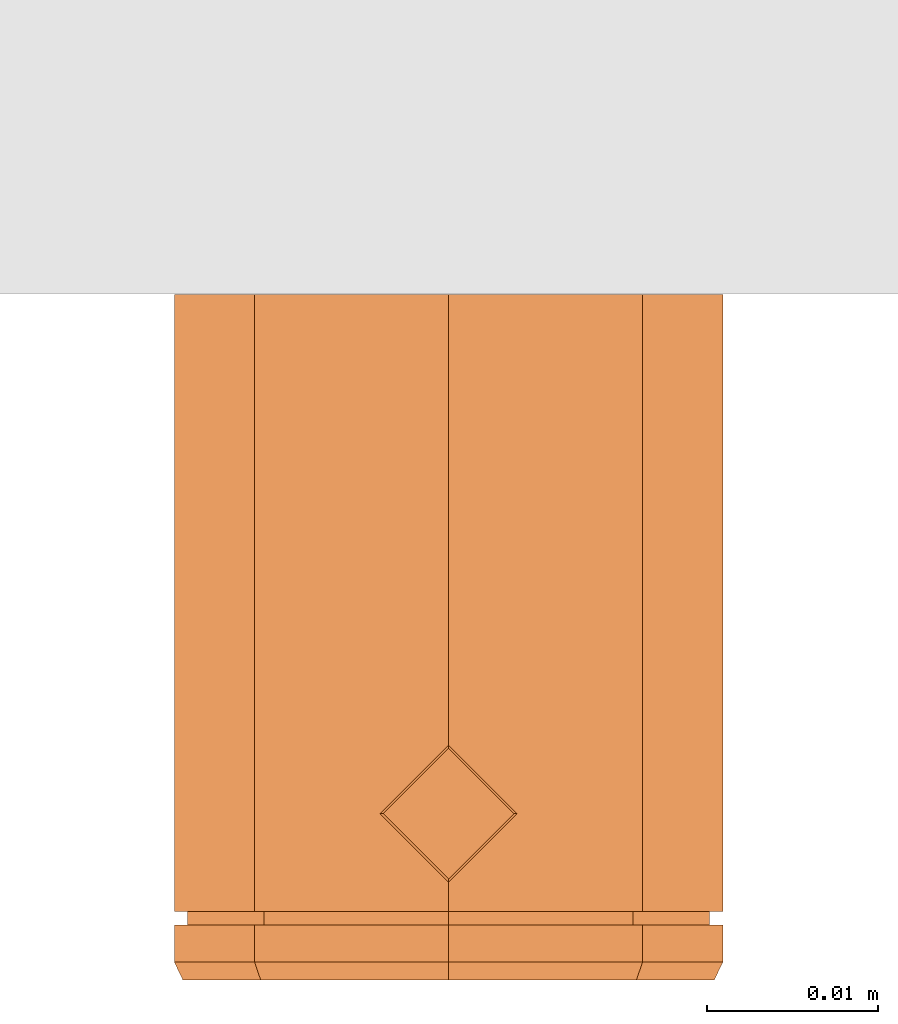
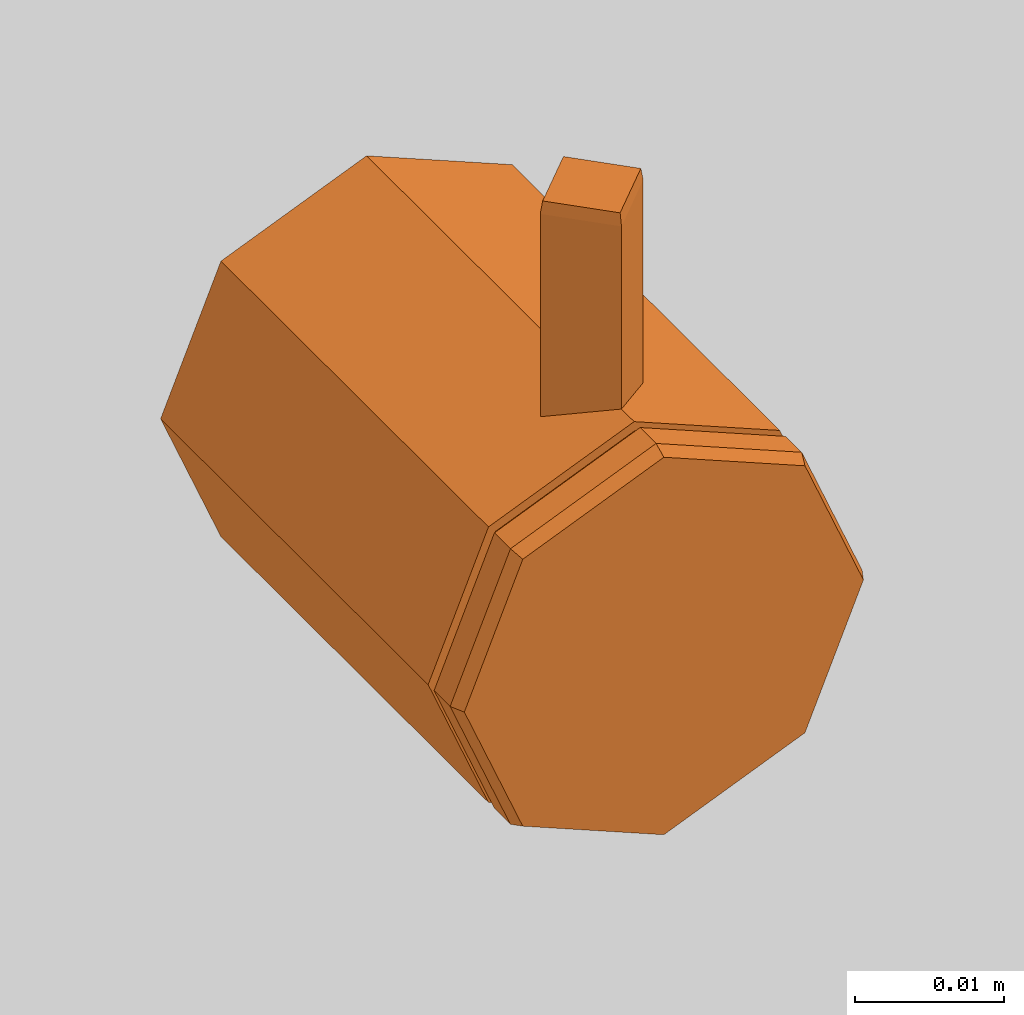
# One storey, part 2 of 2: 1 proxy.
"""IFC2X3 building model written with IfcOpenShell, lengths in millimetres."""

import ifcopenshell
import ifcopenshell.guid

model = None  # the IFC model being written
_history = None  # IfcOwnerHistory: only IFC2X3 demands one
_inside = {}  # id of a spatial element -> (the spatial element, [elements in it])
_under = {}  # id of a project, library or spatial element -> (it, [spatial elements below it])
_declared = {}  # id of a project -> (the project, [libraries it declares])
_typed = {}  # id of a type object -> (the type object, [elements of that type])
_made_of = {}  # id of a material, layer set ... -> (it, [elements and type objects made of it])


def new_model(schema):
    """Start an empty IFC model of exactly this schema.

    Asked for "IFC4X3", IfcOpenShell would pick the latest addendum, in which some entities
    have other attributes; the version numbers below select the first issue.
    IFC2X3 requires an IfcOwnerHistory on every rooted entity: one is made here for all.
    """
    global model, _history
    if schema == "IFC4X3":
        model = ifcopenshell.file(schema_version=(4, 3, 0, 0))
    else:
        model = ifcopenshell.file(schema=schema)
    _inside.clear()
    _under.clear()
    _declared.clear()
    _typed.clear()
    _made_of.clear()
    _history = None
    if model.schema == "IFC2X3":
        org = make("IfcOrganization", Name="unknown")
        user = make(
            "IfcPersonAndOrganization",
            ThePerson=make("IfcPerson", FamilyName="unknown"),
            TheOrganization=org,
        )
        app = make(
            "IfcApplication",
            ApplicationDeveloper=org,
            Version="unknown",
            ApplicationFullName="unknown",
            ApplicationIdentifier="unknown",
        )
        _history = make(
            "IfcOwnerHistory",
            OwningUser=user,
            OwningApplication=app,
            ChangeAction="ADDED",
            CreationDate=0,
        )
    return model


def make(cls, **values):
    """One entity of the class cls with the attributes given. An attribute that is None is left unset."""
    return model.create_entity(
        cls, **{name: value for name, value in values.items() if value is not None}
    )


def entity(cls, *values):
    """Any entity or typed value of the class cls, its attributes in the order of the schema. None: left unset."""
    e = model.create_entity(cls)
    for i, value in enumerate(values):
        if value is not None:
            e[i] = value
    return e


def rooted(cls, **values):
    """An entity with a GlobalId (a new one), such as an element, a storey or a relation."""
    return make(cls, GlobalId=ifcopenshell.guid.new(), OwnerHistory=_history, **values)


def si_unit(unit_type, name, prefix=None):
    """IfcSIUnit, for example si_unit("LENGTHUNIT", "METRE", prefix="MILLI")."""
    return make("IfcSIUnit", UnitType=unit_type, Prefix=prefix, Name=name)


def converted_unit(unit_type, name, factor, base, dimensions=None, offset=None):
    """IfcConversionBasedUnit, such as the inch: factor (a typed value) times the base unit."""
    return make(
        "IfcConversionBasedUnit"
        if offset is None
        else "IfcConversionBasedUnitWithOffset",
        ConversionOffset=offset,
        Dimensions=None
        if dimensions is None
        else entity("IfcDimensionalExponents", *dimensions),
        UnitType=unit_type,
        Name=name,
        ConversionFactor=make(
            "IfcMeasureWithUnit", ValueComponent=factor, UnitComponent=base
        ),
    )


def derived_unit(unit_type, elements):
    """IfcDerivedUnit: a product of units, each with its exponent."""
    return make(
        "IfcDerivedUnit",
        Elements=[
            make("IfcDerivedUnitElement", Unit=unit, Exponent=power)
            for unit, power in elements
        ],
        UnitType=unit_type,
    )


def assignment(units):
    """IfcUnitAssignment: the units of a project."""
    return None if units is None else make("IfcUnitAssignment", Units=units)


def point(xyz):
    """IfcCartesianPoint."""
    return None if xyz is None else make("IfcCartesianPoint", Coordinates=xyz)


def direction(xyz):
    """IfcDirection."""
    return None if xyz is None else make("IfcDirection", DirectionRatios=xyz)


def frame(location, z_axis=None, x_axis=None):
    """IfcAxis2Placement3D, a coordinate frame: its origin and axes. An axis left out is left unset."""
    return make(
        "IfcAxis2Placement3D",
        Location=point(location),
        Axis=direction(z_axis),
        RefDirection=direction(x_axis),
    )


def origin():
    """The frame at (0, 0, 0) with its axes left unset."""
    return frame((0.0, 0.0, 0.0))


def place(relative_to, where):
    """IfcLocalPlacement: puts the frame where relative to a parent placement (None: the world)."""
    return make(
        "IfcLocalPlacement", PlacementRelTo=relative_to, RelativePlacement=where
    )


def context(
    kind, dimensions, precision=None, world=None, true_north=None, identifier=None
):
    """IfcGeometricRepresentationContext, for example the 3D "Model" context."""
    return make(
        "IfcGeometricRepresentationContext",
        ContextIdentifier=identifier,
        ContextType=kind,
        CoordinateSpaceDimension=dimensions,
        Precision=precision,
        WorldCoordinateSystem=world,
        TrueNorth=true_north,
    )


def subcontext(parent, identifier, kind, view, scale=None):
    """IfcGeometricRepresentationSubContext, for example "Body" below "Model"."""
    return make(
        "IfcGeometricRepresentationSubContext",
        ContextIdentifier=identifier,
        ContextType=kind,
        ParentContext=parent,
        TargetScale=scale,
        TargetView=view,
    )


def project(units=None, contexts=None):
    """IfcProject with its units and contexts."""
    return rooted(
        "IfcProject",
        Name="project",
        RepresentationContexts=contexts,
        UnitsInContext=assignment(units),
    )


def spatial(cls, under=None, at=None, **own):
    """A site, building, storey or space (cls), placed at a placement, below another one or the project."""
    s = rooted(cls, ObjectPlacement=at, **own)
    if under is not None:
        _under.setdefault(under.id(), (under, []))[1].append(s)
    return s


def faces_of(points, faces, orient=None, outer=None):
    """IfcFace entities. A face is a list of loops; a loop is a list of indices into points, from 0.

    orient and outer hold one flag for each loop. By default every Orientation is true, the
    first loop of a face is its IfcFaceOuterBound and the others are IfcFaceBound.
    """
    made = []
    for i, loops in enumerate(faces):
        bounds = []
        for j, loop in enumerate(loops):
            is_outer = j == 0 if outer is None else outer[i][j]
            bounds.append(
                make(
                    "IfcFaceOuterBound" if is_outer else "IfcFaceBound",
                    Bound=make("IfcPolyLoop", Polygon=[points[k] for k in loop]),
                    Orientation=True if orient is None else orient[i][j],
                )
            )
        made.append(make("IfcFace", Bounds=bounds))
    return made


def faceted_brep(points, faces, orient=None, outer=None, voids=None):
    """IfcFacetedBrep: a solid bounded by flat faces; with voids (closed shells), ...WithVoids."""
    shared = [point(p) for p in points]
    hull = make("IfcClosedShell", CfsFaces=faces_of(shared, faces, orient, outer))
    if voids is None:
        return make("IfcFacetedBrep", Outer=hull)
    return make(
        "IfcFacetedBrepWithVoids",
        Outer=hull,
        Voids=[
            make(cls, CfsFaces=faces_of(shared, fs, o, b)) for cls, fs, o, b in voids
        ],
    )


def shape(context_of_items, identifier, shape_type, items):
    """IfcShapeRepresentation: the items that make up one representation, for example the "Body"."""
    return make(
        "IfcShapeRepresentation",
        ContextOfItems=context_of_items,
        RepresentationIdentifier=identifier,
        RepresentationType=shape_type,
        Items=items,
    )


def source(mapping_origin, context_of_items, identifier, shape_type, items):
    """IfcRepresentationMap: a shape defined once, which mapped items show again and again."""
    return make(
        "IfcRepresentationMap",
        MappingOrigin=mapping_origin,
        MappedRepresentation=shape(context_of_items, identifier, shape_type, items),
    )


def transform(
    local_origin,
    x_axis=None,
    y_axis=None,
    z_axis=None,
    scale=None,
    scale2=None,
    scale3=None,
    uniform=True,
):
    """IfcCartesianTransformationOperator3D, or its non-uniform kind. x_axis, y_axis, z_axis: its Axis1, 2, 3."""
    if uniform:
        return make(
            "IfcCartesianTransformationOperator3D",
            Axis1=direction(x_axis),
            Axis2=direction(y_axis),
            LocalOrigin=point(local_origin),
            Scale=scale,
            Axis3=direction(z_axis),
        )
    return make(
        "IfcCartesianTransformationOperator3DnonUniform",
        Axis1=direction(x_axis),
        Axis2=direction(y_axis),
        LocalOrigin=point(local_origin),
        Scale=scale,
        Axis3=direction(z_axis),
        Scale2=scale2,
        Scale3=scale3,
    )


def mapped(mapping_source, mapping_target):
    """IfcMappedItem: shows the shape of a source again, moved by a transform."""
    return make(
        "IfcMappedItem", MappingSource=mapping_source, MappingTarget=mapping_target
    )


def made_of(thing, what):
    """Note that an element or type object is made of a material, layer set ...; save() writes the relation."""
    if what is not None:
        _made_of.setdefault(what.id(), (what, []))[1].append(thing)
    return thing


def element(
    cls,
    number,
    at=None,
    inside=None,
    cuts=None,
    type_object=None,
    material=None,
    context=None,
    identifier="Body",
    shape_type=None,
    held_by="IfcProductDefinitionShape",
    body=None,
    shapes=None,
    **own,
):
    """One element of the class cls, such as IfcWall. Its Tag is "e" and its number.

    at: its placement. inside: the storey or other place that contains it. cuts: it is an
    opening in that element (IfcRelVoidsElement). A single representation is given by context,
    identifier, shape_type and body (its items); several are given by shapes. held_by: the class
    of the entity that holds the representations. save() writes the other relations.
    """
    e = rooted(cls, Tag="e%d" % number, ObjectPlacement=at, **own)
    if body is not None:
        shapes = [shape(context, identifier, shape_type, body)]
    if shapes is not None:
        e.Representation = make(held_by, Representations=shapes)
    if inside is not None:
        _inside.setdefault(inside.id(), (inside, []))[1].append(e)
    if cuts is not None:
        rooted(
            "IfcRelVoidsElement", RelatingBuildingElement=cuts, RelatedOpeningElement=e
        )
    if type_object is not None:
        _typed.setdefault(type_object.id(), (type_object, []))[1].append(e)
    return made_of(e, material)


def aggregate(whole, parts):
    """IfcRelAggregates: a whole, such as a stair, and the parts it consists of."""
    return rooted("IfcRelAggregates", RelatingObject=whole, RelatedObjects=parts)


def save(model, path):
    """Write the relations noted so far, then the file.

    IfcRelAggregates (storeys below a building ...), IfcRelContainedInSpatialStructure (elements
    in a storey), IfcRelDefinesByType, IfcRelAssociatesMaterial and IfcRelDeclares: one each for
    every whole, place, type object, material and project.
    """
    for whole, parts in _under.values():
        aggregate(whole, parts)
    for where, things in _inside.values():
        rooted(
            "IfcRelContainedInSpatialStructure",
            RelatedElements=things,
            RelatingStructure=where,
        )
    for kind, things in _typed.values():
        rooted("IfcRelDefinesByType", RelatedObjects=things, RelatingType=kind)
    for what, things in _made_of.values():
        rooted("IfcRelAssociatesMaterial", RelatedObjects=things, RelatingMaterial=what)
    for by, libraries in _declared.values():
        rooted("IfcRelDeclares", RelatingContext=by, RelatedDefinitions=libraries)
    model.write(path)


model = new_model("IFC2X3")

# Units and contexts
model_context = context("Model", 3, precision=1e-05, world=origin(), true_north=direction((2.0, 6.12303176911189e-17, 1.0)))
context_of_model = context(None, 3, precision=1e-05, world=origin(), true_north=direction((2.0, 6.12303176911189e-17, 1.0)))
body_context = subcontext(model_context, "Body", "Model", "MODEL_VIEW")
ifc_project = project(units=[si_unit("LENGTHUNIT", "METRE", prefix="MILLI"), si_unit("AREAUNIT", "SQUARE_METRE"), si_unit("VOLUMEUNIT", "CUBIC_METRE"), converted_unit("PLANEANGLEUNIT", "DEGREE", entity("IfcRatioMeasure", 0.0174532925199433), si_unit("PLANEANGLEUNIT", "RADIAN"), dimensions=[0, 0, 0, 0, 0, 0, 0]), si_unit("MASSUNIT", "GRAM", prefix="KILO"), si_unit("TIMEUNIT", "SECOND"), si_unit("THERMODYNAMICTEMPERATUREUNIT", "KELVIN"), derived_unit("THERMALTRANSMITTANCEUNIT", [(si_unit("MASSUNIT", "GRAM", prefix="KILO"), 1), (si_unit("THERMODYNAMICTEMPERATUREUNIT", "KELVIN"), -1), (si_unit("TIMEUNIT", "SECOND"), -3)]), derived_unit("VOLUMETRICFLOWRATEUNIT", [(si_unit("LENGTHUNIT", "METRE"), 3), (si_unit("TIMEUNIT", "SECOND"), -1)]), si_unit("POWERUNIT", "WATT")], contexts=[model_context, context_of_model])

# Site, building, storey
site_placement = place(None, origin())
site = spatial("IfcSite", under=ifc_project, at=site_placement, Name="Default", CompositionType="ELEMENT")
building_placement = place(site_placement, origin())
building = spatial("IfcBuilding", under=site, at=building_placement, CompositionType="ELEMENT")
storey_placement = place(building_placement, origin())
storey = spatial("IfcBuildingStorey", under=building, at=storey_placement, Name="Level 1", CompositionType="ELEMENT", Elevation=0.0)

# Proxy
shared_shape = source(origin(), body_context, "Body", "Brep", [
    faceted_brep([(13.780326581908, 9.7034824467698, 49.5952722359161), (17.595272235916, 9.70348244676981, 49.5952722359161), (17.595272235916, 13.5184281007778, 49.5952722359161), (17.595272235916, 5.88853679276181, 49.5952722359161), (21.410217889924, 9.70348244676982, 49.5952722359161), (17.595272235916, 5.70348244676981, 48.5952722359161), (13.595272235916, 9.7034824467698, 48.5952722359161), (17.595272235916, 13.7034824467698, 48.5952722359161), (21.595272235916, 9.70348244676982, 48.5952722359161), (17.595272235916, 5.70348244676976, 17.5952722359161), (13.595272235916, 9.70348244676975, 17.5952722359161), (17.595272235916, 13.7034824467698, 17.5952722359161), (21.595272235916, 9.70348244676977, 17.5952722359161), (17.595272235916, 9.70348244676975, 17.5952722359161)], [[[0, 1, 2]], [[1, 0, 3]], [[4, 1, 3]], [[1, 4, 2]], [[5, 3, 0, 6]], [[0, 2, 7, 6]], [[7, 2, 4, 8]], [[4, 3, 5, 8]], [[9, 5, 6, 10]], [[6, 7, 11, 10]], [[11, 7, 8, 12]], [[8, 5, 9, 12]], [[11, 13, 10]], [[11, 12, 13]], [[9, 13, 12]], [[9, 10, 13]]]),
    faceted_brep([(15.1567458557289, 4.0, 32.585201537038), (17.595272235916, 4.0, 33.595272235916), (17.595272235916, 40.0, 33.595272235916), (14.7668451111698, 40.0, 32.4236993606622), (11.9384179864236, 40.0, 31.2521264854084), (9.10999086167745, 40.0, 30.0805536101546), (6.28156373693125, 40.0, 28.9089807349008), (6.28156373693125, 4.0, 28.9089807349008), (9.10999086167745, 4.0, 30.0805536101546), (11.9384179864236, 4.0, 31.2521264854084), (6.28156373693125, 1.04541540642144, 28.9089807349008), (9.73617583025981, 1.04541540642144, 30.3399279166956), (13.6657240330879, 1.04541540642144, 31.9676000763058), (17.595272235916, 1.04541540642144, 33.595272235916), (17.595272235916, 3.20000000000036, 33.595272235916), (14.7668451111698, 3.20000000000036, 32.4236993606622), (11.9384179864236, 3.20000000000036, 31.2521264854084), (9.10999086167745, 3.20000000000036, 30.0805536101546), (6.28156373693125, 3.20000000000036, 28.9089807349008), (2.76684511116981, 4.0, 20.4236993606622), (3.93841798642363, 4.0, 23.2521264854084), (5.10999086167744, 4.0, 26.0805536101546), (5.10999086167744, 40.0, 26.0805536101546), (3.93841798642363, 40.0, 23.2521264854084), (2.76684511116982, 40.0, 20.4236993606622), (1.595272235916, 40.0, 17.595272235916), (1.595272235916, 4.0, 17.595272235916), (2.76684511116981, 3.20000000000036, 20.4236993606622), (1.595272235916, 3.20000000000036, 17.595272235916), (1.595272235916, 1.04541540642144, 17.595272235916), (2.76684511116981, 1.04541540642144, 20.4236993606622), (3.93841798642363, 1.04541540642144, 23.2521264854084), (5.10999086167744, 1.04541540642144, 26.0805536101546), (5.10999086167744, 3.20000000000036, 26.0805536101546), (3.93841798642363, 3.20000000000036, 23.2521264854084), (3.93841798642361, 40.0, 11.9384179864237), (5.10999086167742, 40.0, 9.10999086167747), (6.28156373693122, 40.0, 6.28156373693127), (6.28156373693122, 4.0, 6.28156373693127), (5.10999086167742, 4.0, 9.10999086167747), (3.93841798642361, 4.0, 11.9384179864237), (2.76684511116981, 4.0, 14.7668451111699), (2.76684511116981, 40.0, 14.7668451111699), (2.76684511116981, 1.04541540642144, 14.7668451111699), (2.7668451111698, 3.20000000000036, 14.7668451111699), (3.93841798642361, 3.20000000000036, 11.9384179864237), (5.10999086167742, 3.20000000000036, 9.10999086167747), (6.28156373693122, 3.20000000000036, 6.28156373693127), (6.28156373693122, 1.04541540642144, 6.28156373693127), (5.10999086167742, 1.04541540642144, 9.10999086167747), (3.93841798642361, 1.04541540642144, 11.9384179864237), (11.9384179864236, 4.0, 3.93841798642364), (9.1099908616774, 4.0, 5.10999086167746), (9.1099908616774, 40.0, 5.10999086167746), (11.9384179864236, 40.0, 3.93841798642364), (14.7668451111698, 40.0, 2.76684511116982), (17.595272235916, 40.0, 1.595272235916), (17.595272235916, 4.0, 1.595272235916), (15.1567459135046, 4.0, 2.60534291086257), (9.1099908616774, 1.04541540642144, 5.10999086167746), (9.10999086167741, 3.20000000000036, 5.10999086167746), (11.9384179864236, 3.20000000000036, 3.93841798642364), (13.6657239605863, 3.20000000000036, 3.22294442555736), (17.595272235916, 3.20000000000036, 1.595272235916), (17.595272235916, 1.04541540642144, 1.595272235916), (14.7668451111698, 1.04541540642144, 2.76684511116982), (11.9384179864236, 1.04541540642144, 3.93841798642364), (32.4236993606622, 4.0, 14.7668451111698), (31.2521264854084, 4.0, 11.9384179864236), (30.0805536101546, 4.0, 9.10999086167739), (28.9089807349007, 4.0, 6.2815637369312), (28.9089807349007, 40.0, 6.2815637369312), (30.0805536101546, 40.0, 9.10999086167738), (31.2521264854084, 40.0, 11.9384179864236), (32.4236993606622, 40.0, 14.7668451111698), (33.595272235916, 40.0, 17.5952722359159), (33.595272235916, 4.0, 17.5952722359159), (32.4236993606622, 3.20000000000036, 14.7668451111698), (33.595272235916, 3.20000000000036, 17.5952722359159), (33.595272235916, 1.04541540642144, 17.5952722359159), (32.4236993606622, 1.04541540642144, 14.7668451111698), (31.2521264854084, 1.04541540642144, 11.9384179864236), (30.0805536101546, 1.04541540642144, 9.10999086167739), (28.9089807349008, 1.04541540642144, 6.28156373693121), (28.9089807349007, 3.20000000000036, 6.2815637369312), (30.0805536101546, 3.20000000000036, 9.10999086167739), (31.2521264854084, 3.20000000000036, 11.9384179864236), (20.4236993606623, 40.0, 32.4236993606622), (20.0337985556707, 4.0, 32.5852015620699), (23.2521264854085, 4.0, 31.2521264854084), (26.0805536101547, 4.0, 30.0805536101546), (28.9089807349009, 4.0, 28.9089807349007), (28.9089807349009, 40.0, 28.9089807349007), (26.0805536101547, 40.0, 30.0805536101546), (23.2521264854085, 40.0, 31.2521264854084), (26.0805536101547, 1.04541540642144, 30.0805536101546), (28.9089807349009, 1.04541540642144, 28.9089807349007), (28.9089807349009, 3.20000000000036, 28.9089807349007), (26.0805536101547, 3.20000000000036, 30.0805536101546), (23.2521264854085, 3.20000000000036, 31.2521264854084), (21.5248203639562, 3.20000000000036, 31.967600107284), (20.4236993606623, 1.04541540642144, 32.4236993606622), (23.2521264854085, 1.04541540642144, 31.2521264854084), (22.4723253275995, 4.0, 3.61541377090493), (20.4236993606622, 40.0, 2.7668451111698), (23.2521264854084, 40.0, 3.9384179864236), (26.0805536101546, 40.0, 5.1099908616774), (25.6906530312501, 4.0, 4.94848875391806), (25.4543684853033, 1.04541540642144, 4.85061649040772), (21.5248203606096, 1.04541540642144, 3.22294436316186), (20.4236993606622, 3.20000000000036, 2.76684511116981), (23.2521264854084, 3.20000000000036, 3.93841798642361), (26.0805536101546, 3.20000000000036, 5.10999086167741), (31.2521264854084, 40.0, 23.2521264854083), (30.0805536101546, 40.0, 26.0805536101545), (30.0805536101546, 4.0, 26.0805536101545), (31.2521264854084, 4.0, 23.2521264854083), (32.4236993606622, 4.0, 20.4236993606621), (32.4236993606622, 40.0, 20.4236993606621), (32.4236993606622, 1.04541540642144, 20.4236993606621), (32.4236993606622, 3.20000000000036, 20.4236993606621), (31.2521264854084, 3.20000000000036, 23.2521264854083), (30.0805536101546, 3.20000000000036, 26.0805536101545), (30.0805536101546, 1.04541540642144, 26.0805536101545), (31.2521264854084, 1.04541540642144, 23.2521264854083), (17.595272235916, 4.0, 2.38051823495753), (15.679318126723, 4.0, 3.17413241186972), (20.2848861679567, 4.0, 3.49459280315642), (12.2160443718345, 4.0, 4.60866737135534), (9.52643043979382, 4.0, 5.72274193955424), (6.83681650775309, 4.0, 6.83681650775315), (5.72274193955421, 4.0, 9.52643043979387), (4.60866737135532, 4.0, 12.2160443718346), (3.49459280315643, 4.0, 14.9056583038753), (2.38051823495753, 4.0, 17.595272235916), (3.49459280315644, 4.0, 20.2848861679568), (4.60866737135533, 4.0, 22.9745000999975), (5.72274193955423, 4.0, 25.6641140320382), (6.83681650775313, 4.0, 28.3537279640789), (9.52643043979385, 4.0, 29.4678025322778), (12.2160443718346, 4.0, 30.5818771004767), (14.9056583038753, 4.0, 31.6959516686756), (17.595272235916, 4.0, 32.8100262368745), (19.5112263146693, 4.0, 32.0164120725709), (22.9745000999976, 4.0, 30.5818771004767), (25.6641140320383, 4.0, 29.4678025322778), (28.353727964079, 4.0, 28.3537279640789), (29.4678025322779, 4.0, 25.6641140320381), (30.5818771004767, 4.0, 22.9745000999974), (31.6959516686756, 4.0, 20.2848861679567), (32.8100262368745, 4.0, 17.5952722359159), (31.6959516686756, 4.0, 14.9056583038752), (30.5818771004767, 4.0, 12.2160443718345), (29.4678025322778, 4.0, 9.52643043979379), (28.3537279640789, 4.0, 6.83681650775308), (25.6641140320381, 4.0, 5.72274193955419), (22.9745000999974, 4.0, 4.60866737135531), (13.7633640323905, 3.20000000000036, 31.2227978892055), (17.595272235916, 3.20000000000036, 32.8100262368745), (6.83681650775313, 3.20000000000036, 28.3537279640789), (10.3000902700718, 3.20000000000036, 29.7882629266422), (17.595272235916, 3.20000000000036, 2.38051823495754), (14.9056583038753, 3.20000000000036, 3.49459280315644), (12.2160443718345, 3.20000000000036, 4.60866737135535), (9.52643043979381, 3.20000000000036, 5.72274193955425), (6.8368165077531, 3.20000000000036, 6.83681650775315), (2.38051823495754, 3.20000000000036, 17.595272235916), (3.49459280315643, 3.20000000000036, 20.2848861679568), (4.60866737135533, 3.20000000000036, 22.9745000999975), (5.72274193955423, 3.20000000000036, 25.6641140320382), (3.49459280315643, 3.20000000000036, 14.9056583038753), (5.72274193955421, 3.20000000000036, 9.52643043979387), (4.60866737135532, 3.20000000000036, 12.2160443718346), (21.4271803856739, 3.20000000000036, 3.96774656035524), (28.3537279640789, 3.20000000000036, 6.83681650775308), (24.8904541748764, 3.20000000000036, 5.40228153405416), (32.8100262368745, 3.20000000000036, 17.5952722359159), (31.6959516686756, 3.20000000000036, 14.9056583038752), (30.5818771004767, 3.20000000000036, 12.2160443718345), (29.4678025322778, 3.20000000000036, 9.5264304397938), (31.6959516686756, 3.20000000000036, 20.2848861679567), (28.353727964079, 3.20000000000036, 28.3537279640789), (29.4678025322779, 3.20000000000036, 25.6641140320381), (30.5818771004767, 3.20000000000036, 22.9745000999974), (22.9745000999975, 3.20000000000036, 30.5818771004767), (25.6641140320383, 3.20000000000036, 29.4678025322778), (20.2848861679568, 3.20000000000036, 31.6959516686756), (6.63511712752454, 0.0, 28.5554273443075), (9.37515590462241, 0.0, 29.6903885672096), (12.1151946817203, 0.0, 30.8253497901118), (13.758429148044, 0.0, 31.505999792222), (17.595272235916, 0.0, 33.095272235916), (6.63511712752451, 0.0, 6.63511712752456), (5.50015590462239, 0.0, 9.37515590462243), (4.36519468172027, 0.0, 12.1151946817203), (3.23023345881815, 0.0, 14.8552334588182), (2.09527223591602, 0.0, 17.595272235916), (3.23023345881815, 0.0, 20.3353110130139), (4.36519468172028, 0.0, 23.0753497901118), (5.50015590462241, 0.0, 25.8153885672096), (17.595272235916, 0.0, 2.09527223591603), (13.7584291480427, 0.0, 3.68454467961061), (12.1151946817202, 0.0, 4.36519468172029), (9.37515590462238, 0.0, 5.50015590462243), (28.5554273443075, 0.0, 6.63511712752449), (25.8153885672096, 0.0, 5.50015590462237), (23.0753497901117, 0.0, 4.36519468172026), (21.4321153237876, 0.0, 3.68454467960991), (28.5554273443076, 0.0, 28.5554273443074), (29.6903885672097, 0.0, 25.8153885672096), (30.8253497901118, 0.0, 23.0753497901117), (31.9603110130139, 0.0, 20.3353110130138), (33.095272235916, 0.0, 17.5952722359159), (31.9603110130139, 0.0, 14.8552334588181), (30.8253497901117, 0.0, 12.1151946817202), (29.6903885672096, 0.0, 9.37515590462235), (21.4321153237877, 0.0, 31.5059997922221), (23.0753497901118, 0.0, 30.8253497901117), (25.8153885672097, 0.0, 29.6903885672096), (17.595272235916, 0.0, 17.595272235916), (17.595272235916, 40.0, 17.595272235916)], [[[0, 1, 2, 3, 4, 5, 6, 7, 8, 9]], [[10, 11, 12, 13, 14, 15, 16, 17, 18]], [[19, 20, 21, 7, 6, 22, 23, 24, 25, 26]], [[27, 28, 29, 30, 31, 32, 10, 18, 33, 34]], [[35, 36, 37, 38, 39, 40, 41, 26, 25, 42]], [[43, 29, 28, 44, 45, 46, 47, 48, 49, 50]], [[51, 52, 38, 37, 53, 54, 55, 56, 57, 58]], [[59, 48, 47, 60, 61, 62, 63, 64, 65, 66]], [[67, 68, 69, 70, 71, 72, 73, 74, 75, 76]], [[77, 78, 79, 80, 81, 82, 83, 84, 85, 86]], [[87, 2, 1, 88, 89, 90, 91, 92, 93, 94]], [[95, 96, 97, 98, 99, 100, 14, 13, 101, 102]], [[103, 57, 56, 104, 105, 106, 71, 70, 107]], [[83, 108, 109, 64, 63, 110, 111, 112, 84]], [[113, 114, 92, 91, 115, 116, 117, 76, 75, 118]], [[119, 79, 78, 120, 121, 122, 97, 96, 123, 124]], [[125, 38, 52]], [[38, 125, 126]], [[125, 52, 51]], [[125, 51, 58]], [[125, 58, 57]], [[125, 57, 103]], [[125, 103, 107]], [[125, 107, 70]], [[70, 127, 125]], [[38, 126, 128]], [[38, 128, 129]], [[38, 129, 130]], [[130, 39, 38]], [[130, 40, 39]], [[130, 41, 40]], [[130, 26, 41]], [[26, 130, 131]], [[26, 131, 132]], [[26, 132, 133]], [[26, 133, 134]], [[26, 134, 135]], [[26, 135, 136]], [[26, 136, 137]], [[26, 137, 138]], [[138, 19, 26]], [[138, 20, 19]], [[138, 21, 20]], [[138, 7, 21]], [[7, 138, 139]], [[7, 139, 140]], [[7, 140, 141]], [[7, 141, 142]], [[142, 8, 7]], [[142, 9, 8]], [[142, 0, 9]], [[142, 1, 0]], [[142, 88, 1]], [[142, 89, 88]], [[142, 90, 89]], [[142, 91, 90]], [[91, 142, 143]], [[91, 143, 144]], [[91, 144, 145]], [[91, 145, 146]], [[146, 115, 91]], [[146, 116, 115]], [[146, 117, 116]], [[146, 76, 117]], [[76, 146, 147]], [[76, 147, 148]], [[76, 148, 149]], [[76, 149, 150]], [[76, 150, 151]], [[76, 151, 152]], [[76, 152, 153]], [[76, 153, 154]], [[154, 70, 69]], [[70, 154, 155]], [[154, 69, 68]], [[154, 68, 67]], [[154, 67, 76]], [[70, 155, 156]], [[70, 156, 127]], [[157, 158, 142, 141, 140, 139, 138, 159, 160]], [[125, 161, 162, 163, 164, 165, 130, 129, 128, 126]], [[135, 134, 166, 167, 168, 169, 159, 138, 137, 136]], [[170, 166, 134, 133, 132, 131, 130, 165, 171, 172]], [[173, 161, 125, 127, 156, 155, 154, 174, 175]], [[151, 150, 176, 177, 178, 179, 174, 154, 153, 152]], [[180, 176, 150, 149, 148, 147, 146, 181, 182, 183]], [[184, 185, 181, 146, 145, 144, 143, 142, 158, 186]], [[161, 63, 62]], [[161, 62, 61]], [[161, 61, 60]], [[161, 60, 47]], [[47, 162, 161]], [[161, 110, 63]], [[161, 111, 110]], [[161, 112, 111]], [[161, 84, 112]], [[84, 161, 173]], [[84, 173, 175]], [[84, 175, 174]], [[174, 85, 84]], [[174, 86, 85]], [[174, 77, 86]], [[174, 78, 77]], [[78, 174, 179]], [[78, 179, 178]], [[78, 178, 177]], [[78, 177, 176]], [[78, 176, 180]], [[78, 180, 183]], [[78, 183, 182]], [[78, 182, 181]], [[181, 120, 78]], [[181, 121, 120]], [[181, 122, 121]], [[181, 97, 122]], [[97, 181, 185]], [[97, 185, 184]], [[97, 184, 186]], [[97, 186, 158]], [[158, 98, 97]], [[158, 99, 98]], [[158, 100, 99]], [[158, 14, 100]], [[158, 15, 14]], [[158, 16, 15]], [[158, 17, 16]], [[158, 18, 17]], [[18, 158, 157]], [[18, 157, 160]], [[18, 160, 159]], [[159, 33, 18]], [[159, 34, 33]], [[159, 27, 34]], [[159, 28, 27]], [[28, 159, 169]], [[28, 169, 168]], [[28, 168, 167]], [[28, 167, 166]], [[28, 166, 170]], [[28, 170, 172]], [[28, 172, 171]], [[28, 171, 165]], [[165, 47, 46]], [[47, 165, 164]], [[165, 46, 45]], [[165, 45, 44]], [[165, 44, 28]], [[47, 164, 163]], [[47, 163, 162]], [[12, 11, 10, 187, 188, 189, 190, 191, 13]], [[50, 49, 48, 192, 193, 194, 195, 196, 29, 43]], [[31, 30, 29, 196, 197, 198, 199, 187, 10, 32]], [[192, 48, 59, 66, 65, 64, 200, 201, 202, 203]], [[109, 108, 83, 204, 205, 206, 207, 200, 64]], [[124, 123, 96, 208, 209, 210, 211, 212, 79, 119]], [[81, 80, 79, 212, 213, 214, 215, 204, 83, 82]], [[208, 96, 95, 102, 101, 13, 191, 216, 217, 218]], [[219, 192, 203]], [[219, 203, 202]], [[219, 202, 201]], [[219, 201, 200]], [[219, 200, 207]], [[219, 193, 192]], [[219, 194, 193]], [[219, 195, 194]], [[219, 196, 195]], [[219, 197, 196]], [[219, 198, 197]], [[219, 199, 198]], [[219, 187, 199]], [[219, 188, 187]], [[219, 189, 188]], [[219, 190, 189]], [[219, 191, 190]], [[219, 207, 206]], [[219, 206, 205]], [[219, 205, 204]], [[219, 204, 215]], [[219, 215, 214]], [[219, 214, 213]], [[219, 213, 212]], [[219, 212, 211]], [[219, 216, 191]], [[219, 217, 216]], [[219, 218, 217]], [[219, 208, 218]], [[219, 211, 210]], [[219, 210, 209]], [[219, 209, 208]], [[220, 56, 55]], [[220, 55, 54]], [[220, 54, 53]], [[220, 53, 37]], [[220, 37, 36]], [[220, 36, 35]], [[220, 35, 42]], [[220, 42, 25]], [[220, 25, 24]], [[220, 24, 23]], [[220, 23, 22]], [[220, 22, 6]], [[220, 6, 5]], [[220, 5, 4]], [[220, 4, 3]], [[220, 3, 2]], [[220, 2, 87]], [[220, 104, 56]], [[220, 105, 104]], [[220, 106, 105]], [[220, 71, 106]], [[220, 72, 71]], [[220, 73, 72]], [[220, 74, 73]], [[220, 75, 74]], [[220, 87, 94]], [[220, 94, 93]], [[220, 93, 92]], [[220, 92, 114]], [[220, 114, 113]], [[220, 113, 118]], [[220, 118, 75]]]),
])
proxy_placement = place(storey_placement, frame((-8.34300879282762, 3912.69480887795, 472.928940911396)))
element("IfcBuildingElementProxy", 1, at=proxy_placement, inside=storey, Name="13-1657:13.1657 Dolphin Large Robe Hook - with Pin", ObjectType="13.1657 Dolphin Large Robe Hook - with Pin", CompositionType="ELEMENT", context=body_context, shape_type="MappedRepresentation", body=[
    mapped(shared_shape, transform((0.0, 0.0, 0.0), scale=1.0)),
])

save(model, "model.ifc")
